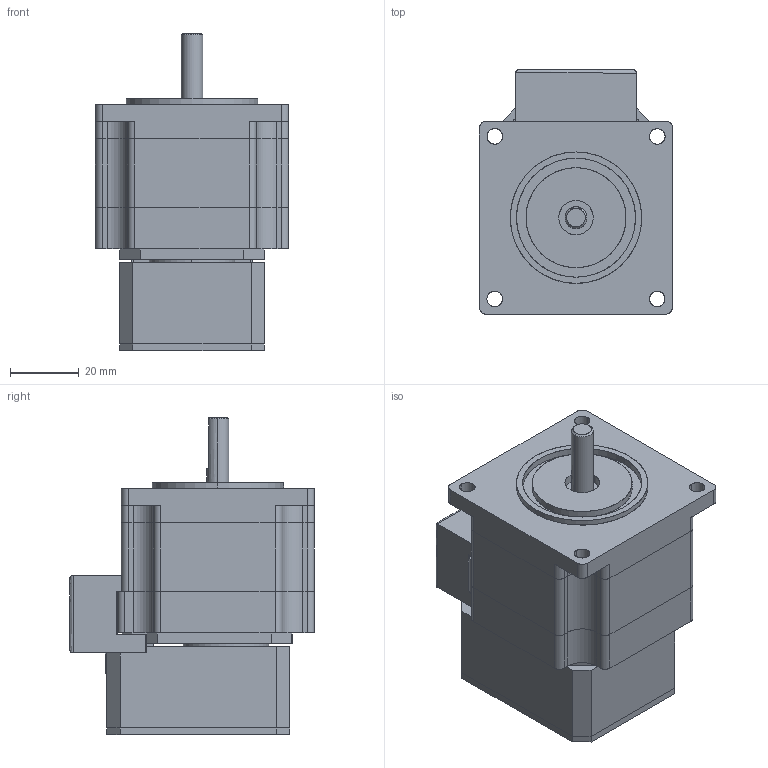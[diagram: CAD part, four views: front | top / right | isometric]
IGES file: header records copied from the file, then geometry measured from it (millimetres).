
Start section: SolidWorks IGES file using analytic representation for surfaces
Global section: file name: C:\Users\render\Documents\CAD Files\CoolmuscleMotors\CM1 Series CAD\CM1-23S\CM1-X-23S30.IGS; native system: SolidWorks 2009; preprocessor: SolidWorks 2009; author: render; date: 100712.114017; units: millimetre
Bounding box: 56.02 x 71.02 x 92.15 mm (x, y, z)
Surface area: 58853.6 mm2 (no closed solid volume)
Topology: 0 solids, 0 shells, 762 faces, 7320 edges, 7320 vertices
Faces by surface type: bspline 577, revolution 185
